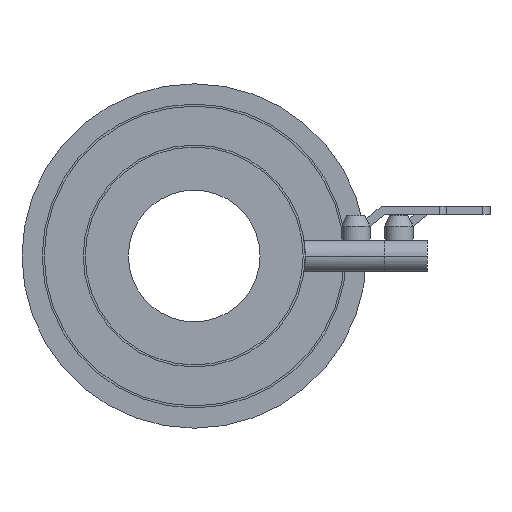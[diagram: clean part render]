
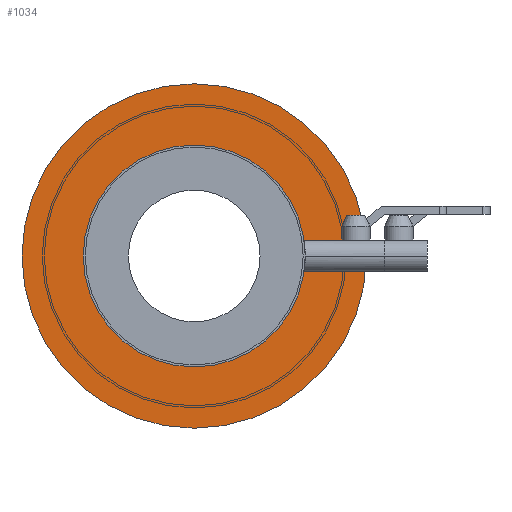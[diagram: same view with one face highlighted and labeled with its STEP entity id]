
A CAD part, left-side view. The second image highlights one B-rep face of the part: STEP entity #1034.
In plain terms, the highlighted planar face has unit normal (-1, 0, 0).
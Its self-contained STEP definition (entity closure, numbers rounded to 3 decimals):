
#291=CARTESIAN_POINT('',(-453.,0.,0.));
#292=DIRECTION('',(-1.,0.,0.));
#293=DIRECTION('',(0.,1.,0.));
#294=AXIS2_PLACEMENT_3D('',#291,#292,#293);
#296=CARTESIAN_POINT('',(-453.,0.,0.));
#297=DIRECTION('',(1.,0.,0.));
#298=DIRECTION('',(0.,1.,0.));
#299=AXIS2_PLACEMENT_3D('',#296,#297,#298);
#301=CARTESIAN_POINT('',(-453.,0.,0.));
#302=DIRECTION('',(1.,0.,0.));
#303=DIRECTION('',(0.,1.,0.));
#304=AXIS2_PLACEMENT_3D('',#301,#302,#303);
#306=CARTESIAN_POINT('',(-453.,0.,0.));
#307=DIRECTION('',(1.,0.,0.));
#308=DIRECTION('',(0.,-1.,0.));
#309=AXIS2_PLACEMENT_3D('',#306,#307,#308);
#666=CARTESIAN_POINT('',(-453.,170.,0.));
#668=VERTEX_POINT('',#666);
#678=CARTESIAN_POINT('',(-453.,-170.,0.));
#680=VERTEX_POINT('',#678);
#743=CARTESIAN_POINT('',(-453.,109.55,0.));
#744=CARTESIAN_POINT('',(-453.,-109.55,0.));
#745=VERTEX_POINT('',#743);
#746=VERTEX_POINT('',#744);
#1019=CARTESIAN_POINT('',(-453.,0.,0.));
#1020=DIRECTION('',(1.,0.,0.));
#1021=DIRECTION('',(0.,-1.,0.));
#1022=AXIS2_PLACEMENT_3D('',#1019,#1020,#1021);
#1023=PLANE('',#1022);
#1024=ORIENTED_EDGE('',*,*,#758,.F.);
#1025=ORIENTED_EDGE('',*,*,#776,.T.);
#1026=EDGE_LOOP('',(#1024,#1025));
#1027=FACE_OUTER_BOUND('',#1026,.F.);
#1029=ORIENTED_EDGE('',*,*,#1028,.F.);
#1031=ORIENTED_EDGE('',*,*,#1030,.F.);
#1032=EDGE_LOOP('',(#1029,#1031));
#1033=FACE_BOUND('',#1032,.F.);
#295=CIRCLE('',#294,170.);
#300=CIRCLE('',#299,170.);
#305=CIRCLE('',#304,109.55);
#310=CIRCLE('',#309,109.55);
#758=EDGE_CURVE('',#668,#680,#295,.T.);
#776=EDGE_CURVE('',#668,#680,#300,.T.);
#1028=EDGE_CURVE('',#745,#746,#305,.T.);
#1030=EDGE_CURVE('',#746,#745,#310,.T.);
#1034=ADVANCED_FACE('',(#1027,#1033),#1023,.F.);
